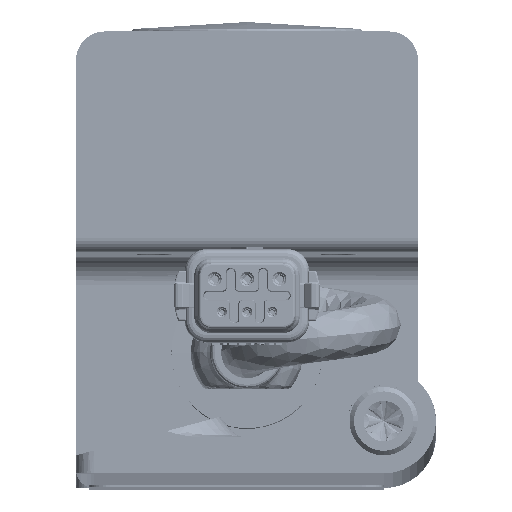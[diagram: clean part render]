
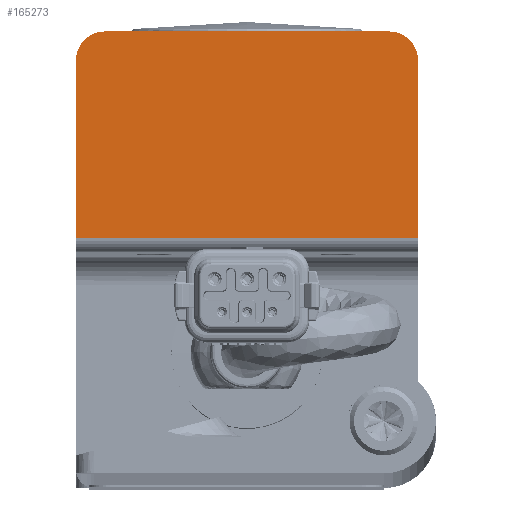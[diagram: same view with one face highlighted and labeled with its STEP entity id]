
A CAD part, top view. The second image highlights one B-rep face of the part: STEP entity #165273.
In plain terms, the highlighted planar face has unit normal (0, 0, 1) as drawn and (0, 0, -1) by its records, which use the part's own axes.
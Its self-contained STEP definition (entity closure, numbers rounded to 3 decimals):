
#5397 = CARTESIAN_POINT ( 'NONE',  ( -23.75, -0.362, -21.255 ) ) ;
#9153 = CARTESIAN_POINT ( 'NONE',  ( 19.75, 28.289, -21.255 ) ) ;
#17773 = AXIS2_PLACEMENT_3D ( 'NONE', #394861, #585450, #56856 ) ;
#25515 = VECTOR ( 'NONE', #431804, 1000. ) ;
#29690 = DIRECTION ( 'NONE',  ( 1., 0., 0. ) ) ;
#35329 = CARTESIAN_POINT ( 'NONE',  ( -23.75, 24.289, -21.255 ) ) ;
#56856 = DIRECTION ( 'NONE',  ( 1., 0., 0. ) ) ;
#74931 = CARTESIAN_POINT ( 'NONE',  ( -19.75, 28.289, -21.255 ) ) ;
#96960 = VERTEX_POINT ( 'NONE', #74931 ) ;
#110135 = EDGE_CURVE ( 'NONE', #622616, #661199, #300784, .T. ) ;
#165273 = ADVANCED_FACE ( 'NONE', ( #716199 ), #200367, .F. ) ;
#170757 = LINE ( 'NONE', #428626, #471187 ) ;
#200367 = PLANE ( 'NONE',  #17773 ) ;
#242463 = DIRECTION ( 'NONE',  ( 0., 1., 0. ) ) ;
#255298 = ORIENTED_EDGE ( 'NONE', *, *, #570454, .T. ) ;
#256746 = CARTESIAN_POINT ( 'NONE',  ( 23.75, 24.289, -21.255 ) ) ;
#257646 = VECTOR ( 'NONE', #684086, 1000. ) ;
#261352 = VERTEX_POINT ( 'NONE', #9153 ) ;
#273543 = ORIENTED_EDGE ( 'NONE', *, *, #110135, .T. ) ;
#280159 = CARTESIAN_POINT ( 'NONE',  ( 19.75, 24.289, -21.255 ) ) ;
#284319 = DIRECTION ( 'NONE',  ( 0., 0., -1. ) ) ;
#285448 = CARTESIAN_POINT ( 'NONE',  ( 23.75, -0.362, -21.255 ) ) ;
#300784 = LINE ( 'NONE', #499439, #25515 ) ;
#307224 = AXIS2_PLACEMENT_3D ( 'NONE', #744187, #676716, #29690 ) ;
#309509 = ORIENTED_EDGE ( 'NONE', *, *, #326460, .F. ) ;
#316044 = EDGE_CURVE ( 'NONE', #261352, #403018, #396564, .T. ) ;
#326460 = EDGE_CURVE ( 'NONE', #622616, #403018, #502127, .T. ) ;
#382025 = EDGE_LOOP ( 'NONE', ( #309509, #273543, #255298, #418475, #749256, #605507 ) ) ;
#394861 = CARTESIAN_POINT ( 'NONE',  ( 23.75, 25.239, -21.255 ) ) ;
#396564 = CIRCLE ( 'NONE', #815451, 4. ) ;
#403018 = VERTEX_POINT ( 'NONE', #256746 ) ;
#415156 = CIRCLE ( 'NONE', #307224, 4. ) ;
#418475 = ORIENTED_EDGE ( 'NONE', *, *, #707656, .T. ) ;
#428626 = CARTESIAN_POINT ( 'NONE',  ( -23.75, 25.239, -21.255 ) ) ;
#430348 = CARTESIAN_POINT ( 'NONE',  ( 23.75, -3., -21.255 ) ) ;
#431804 = DIRECTION ( 'NONE',  ( -1., 0., 0. ) ) ;
#463659 = LINE ( 'NONE', #527123, #476161 ) ;
#471187 = VECTOR ( 'NONE', #242463, 1000. ) ;
#476161 = VECTOR ( 'NONE', #594878, 1000. ) ;
#478843 = DIRECTION ( 'NONE',  ( 1., 0., 0. ) ) ;
#499439 = CARTESIAN_POINT ( 'NONE',  ( 23.75, -0.362, -21.255 ) ) ;
#502127 = LINE ( 'NONE', #430348, #257646 ) ;
#527123 = CARTESIAN_POINT ( 'NONE',  ( 23.75, 28.289, -21.255 ) ) ;
#563988 = VERTEX_POINT ( 'NONE', #35329 ) ;
#570454 = EDGE_CURVE ( 'NONE', #661199, #563988, #170757, .T. ) ;
#585450 = DIRECTION ( 'NONE',  ( 0., 0., 1. ) ) ;
#594878 = DIRECTION ( 'NONE',  ( -1., 0., 0. ) ) ;
#605507 = ORIENTED_EDGE ( 'NONE', *, *, #316044, .T. ) ;
#622616 = VERTEX_POINT ( 'NONE', #285448 ) ;
#661199 = VERTEX_POINT ( 'NONE', #5397 ) ;
#676716 = DIRECTION ( 'NONE',  ( 0., 0., -1. ) ) ;
#684086 = DIRECTION ( 'NONE',  ( 0., 1., 0. ) ) ;
#707656 = EDGE_CURVE ( 'NONE', #563988, #96960, #415156, .T. ) ;
#716199 = FACE_OUTER_BOUND ( 'NONE', #382025, .T. ) ;
#722597 = EDGE_CURVE ( 'NONE', #261352, #96960, #463659, .T. ) ;
#744187 = CARTESIAN_POINT ( 'NONE',  ( -19.75, 24.289, -21.255 ) ) ;
#749256 = ORIENTED_EDGE ( 'NONE', *, *, #722597, .F. ) ;
#815451 = AXIS2_PLACEMENT_3D ( 'NONE', #280159, #284319, #478843 ) ;
